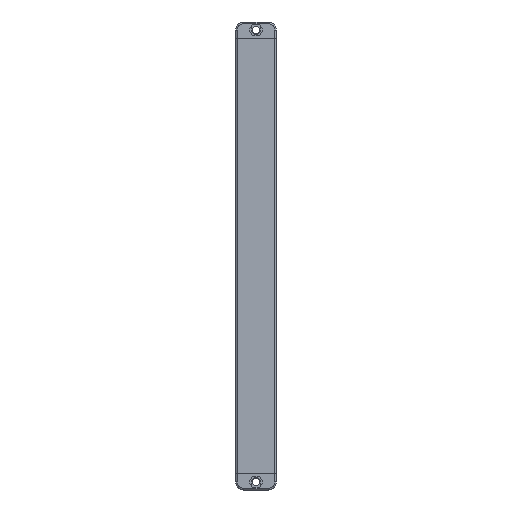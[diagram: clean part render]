
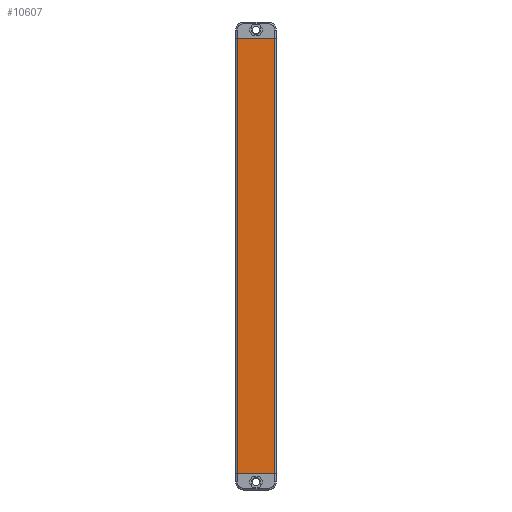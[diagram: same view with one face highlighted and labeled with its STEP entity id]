
A CAD part, front view. The second image highlights one B-rep face of the part: STEP entity #10607.
In plain terms, the highlighted planar face has unit normal (0, -1, 0).
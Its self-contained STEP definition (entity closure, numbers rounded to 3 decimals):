
#1078 = DIRECTION ( 'NONE',  ( 0., 1., 0. ) ) ;
#1738 = CARTESIAN_POINT ( 'NONE',  ( -11.5, -6., 0. ) ) ;
#1860 = EDGE_CURVE ( 'NONE', #3794, #3204, #10391, .T. ) ;
#1935 = FACE_OUTER_BOUND ( 'NONE', #2015, .T. ) ;
#1940 = LINE ( 'NONE', #5476, #2949 ) ;
#2015 = EDGE_LOOP ( 'NONE', ( #6205, #5340, #8862, #4465 ) ) ;
#2431 = CARTESIAN_POINT ( 'NONE',  ( -11.5, -6., 270. ) ) ;
#2524 = DIRECTION ( 'NONE',  ( 0., 0., -1. ) ) ;
#2949 = VECTOR ( 'NONE', #9012, 1000. ) ;
#3204 = VERTEX_POINT ( 'NONE', #6102 ) ;
#3794 = VERTEX_POINT ( 'NONE', #11270 ) ;
#3814 = VERTEX_POINT ( 'NONE', #1738 ) ;
#3947 = VERTEX_POINT ( 'NONE', #9094 ) ;
#4131 = LINE ( 'NONE', #7661, #5387 ) ;
#4465 = ORIENTED_EDGE ( 'NONE', *, *, #10223, .T. ) ;
#4606 = DIRECTION ( 'NONE',  ( 0., 0., 1. ) ) ;
#5340 = ORIENTED_EDGE ( 'NONE', *, *, #11314, .F. ) ;
#5387 = VECTOR ( 'NONE', #11204, 1000. ) ;
#5472 = PLANE ( 'NONE',  #9206 ) ;
#5476 = CARTESIAN_POINT ( 'NONE',  ( -0.005, -6., 0. ) ) ;
#5971 = DIRECTION ( 'NONE',  ( 1., 0., 0. ) ) ;
#6102 = CARTESIAN_POINT ( 'NONE',  ( 11.5, -6., 270. ) ) ;
#6205 = ORIENTED_EDGE ( 'NONE', *, *, #6992, .T. ) ;
#6236 = VECTOR ( 'NONE', #5971, 1000. ) ;
#6931 = LINE ( 'NONE', #10482, #8097 ) ;
#6992 = EDGE_CURVE ( 'NONE', #3814, #3947, #1940, .T. ) ;
#7661 = CARTESIAN_POINT ( 'NONE',  ( 11.5, -6., 270. ) ) ;
#8097 = VECTOR ( 'NONE', #2524, 1000. ) ;
#8862 = ORIENTED_EDGE ( 'NONE', *, *, #1860, .F. ) ;
#9005 = CARTESIAN_POINT ( 'NONE',  ( -0.005, -6., 270. ) ) ;
#9012 = DIRECTION ( 'NONE',  ( 1., 0., 0. ) ) ;
#9094 = CARTESIAN_POINT ( 'NONE',  ( 11.5, -6., 0. ) ) ;
#9206 = AXIS2_PLACEMENT_3D ( 'NONE', #9005, #1078, #4606 ) ;
#10223 = EDGE_CURVE ( 'NONE', #3794, #3814, #6931, .T. ) ;
#10391 = LINE ( 'NONE', #2431, #6236 ) ;
#10482 = CARTESIAN_POINT ( 'NONE',  ( -11.5, -6., 270. ) ) ;
#10607 = ADVANCED_FACE ( 'NONE', ( #1935 ), #5472, .F. ) ;
#11204 = DIRECTION ( 'NONE',  ( 0., 0., -1. ) ) ;
#11270 = CARTESIAN_POINT ( 'NONE',  ( -11.5, -6., 270. ) ) ;
#11314 = EDGE_CURVE ( 'NONE', #3204, #3947, #4131, .T. ) ;
